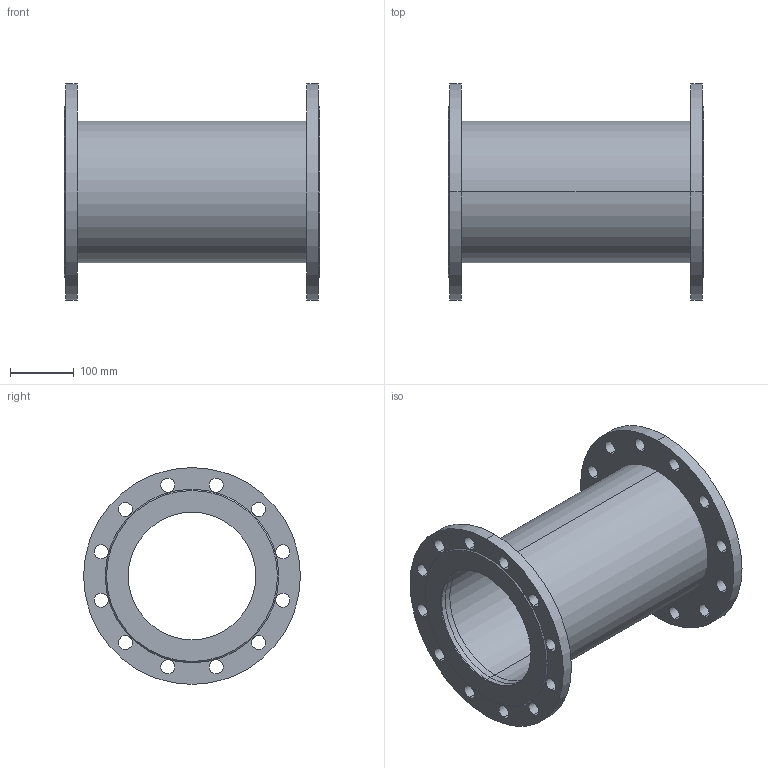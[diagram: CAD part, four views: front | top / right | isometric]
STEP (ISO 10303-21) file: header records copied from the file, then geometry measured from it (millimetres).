
FILE_DESCRIPTION(('STEP AP214'),'1');
FILE_NAME('S:/EK/USER/CAT6/3DHomepage_27-04-2012/VDI-Rohrsysteme_und_Stahlrohre/8500/8500_PN16_DN200_L400.STP','2013-01-21T14:40:52',(' '),(' '),'Spatial InterOp 3D',' ',' ');
FILE_SCHEMA(('automotive_design'));
Length unit declared in the file: millimetre
Products named in the file (5): 3D-Objekt
Bounding box: 400 x 340 x 340 mm (x, y, z)
Volume: 4847506.8 mm3; surface area: 939239.9 mm2
Topology: 5 solids, 5 shells, 78 faces, 204 edges, 136 vertices
Faces by surface type: cylinder 64, plane 10, cone 4
Entity records: 3341 total; most frequent: DIRECTION 506, CARTESIAN_POINT 423, ORIENTED_EDGE 408, AXIS2_PLACEMENT_3D 219, EDGE_CURVE 204, EDGE_LOOP 136, VERTEX_POINT 136, CIRCLE 136
